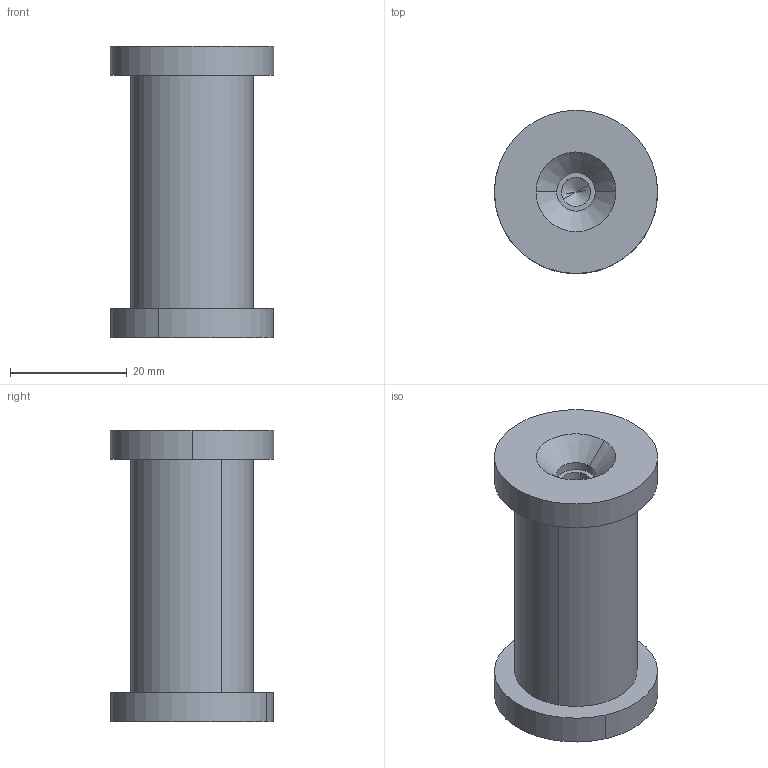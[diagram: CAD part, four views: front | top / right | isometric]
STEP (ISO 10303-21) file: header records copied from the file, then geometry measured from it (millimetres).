
FILE_DESCRIPTION (( 'STEP AP203' ), '1' );
FILE_NAME ('Bolzen Scheibe A M20.STEP', '2018-02-20T07:54:43', ( 'install' ), ( 'Hewlett-Packard Company' ), 'SwSTEP 2.0', 'SolidWorks 2017', '' );
FILE_SCHEMA (( 'CONFIG_CONTROL_DESIGN' ));
Length unit declared in the file: millimetre
Products named in the file (3): Bolzen Scheibe A M20; Bolzen ScheibeVarA_generisch_M20; Scheibe_M20
Assembly tree (3 placements, depth 2):
  Bolzen Scheibe A M20
    Scheibe_M20  x2
    Bolzen ScheibeVarA_generisch_M20
Bounding box: 28 x 28 x 50 mm (x, y, z)
Volume: 18623.6 mm3; surface area: 7235.1 mm2
Topology: 3 solids, 3 shells, 28 faces, 58 edges, 34 vertices
Faces by surface type: cylinder 14, cone 8, plane 6
Entity records: 853 total; most frequent: DIRECTION 112, CARTESIAN_POINT 88, ORIENTED_EDGE 76, AXIS2_PLACEMENT_3D 48, EDGE_CURVE 38, PERSON_AND_ORGANIZATION 27, VERTEX_POINT 24, EDGE_LOOP 24
